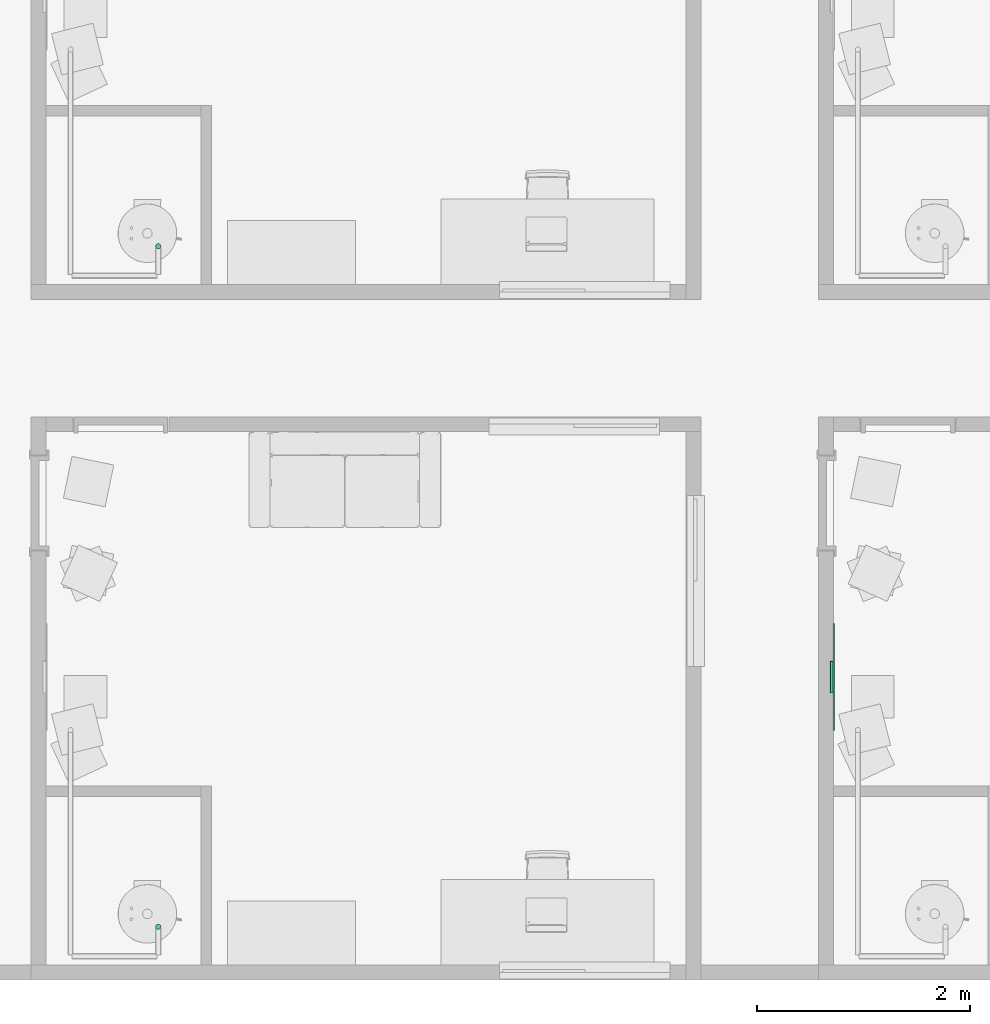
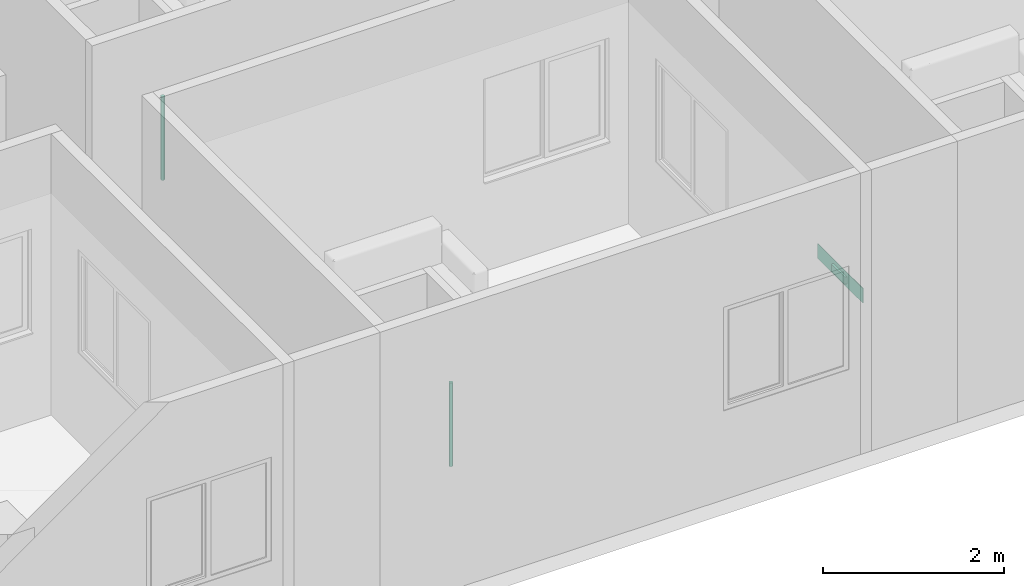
# One storey, part 22 of 71: 2 pipe segments, 1 air terminal.
"""IFC4 building model written with IfcOpenShell, lengths in centimetres."""

import ifcopenshell
import ifcopenshell.guid

model = None  # the IFC model being written
_history = None  # IfcOwnerHistory: only IFC2X3 demands one
_inside = {}  # id of a spatial element -> (the spatial element, [elements in it])
_under = {}  # id of a project, library or spatial element -> (it, [spatial elements below it])
_declared = {}  # id of a project -> (the project, [libraries it declares])
_typed = {}  # id of a type object -> (the type object, [elements of that type])
_made_of = {}  # id of a material, layer set ... -> (it, [elements and type objects made of it])


def new_model(schema):
    """Start an empty IFC model of exactly this schema.

    Asked for "IFC4X3", IfcOpenShell would pick the latest addendum, in which some entities
    have other attributes; the version numbers below select the first issue.
    IFC2X3 requires an IfcOwnerHistory on every rooted entity: one is made here for all.
    """
    global model, _history
    if schema == "IFC4X3":
        model = ifcopenshell.file(schema_version=(4, 3, 0, 0))
    else:
        model = ifcopenshell.file(schema=schema)
    _inside.clear()
    _under.clear()
    _declared.clear()
    _typed.clear()
    _made_of.clear()
    _history = None
    if model.schema == "IFC2X3":
        org = make("IfcOrganization", Name="unknown")
        user = make(
            "IfcPersonAndOrganization",
            ThePerson=make("IfcPerson", FamilyName="unknown"),
            TheOrganization=org,
        )
        app = make(
            "IfcApplication",
            ApplicationDeveloper=org,
            Version="unknown",
            ApplicationFullName="unknown",
            ApplicationIdentifier="unknown",
        )
        _history = make(
            "IfcOwnerHistory",
            OwningUser=user,
            OwningApplication=app,
            ChangeAction="ADDED",
            CreationDate=0,
        )
    return model


def make(cls, **values):
    """One entity of the class cls with the attributes given. An attribute that is None is left unset."""
    return model.create_entity(
        cls, **{name: value for name, value in values.items() if value is not None}
    )


def entity(cls, *values):
    """Any entity or typed value of the class cls, its attributes in the order of the schema. None: left unset."""
    e = model.create_entity(cls)
    for i, value in enumerate(values):
        if value is not None:
            e[i] = value
    return e


def rooted(cls, **values):
    """An entity with a GlobalId (a new one), such as an element, a storey or a relation."""
    return make(cls, GlobalId=ifcopenshell.guid.new(), OwnerHistory=_history, **values)


def si_unit(unit_type, name, prefix=None):
    """IfcSIUnit, for example si_unit("LENGTHUNIT", "METRE", prefix="MILLI")."""
    return make("IfcSIUnit", UnitType=unit_type, Prefix=prefix, Name=name)


def converted_unit(unit_type, name, factor, base, dimensions=None, offset=None):
    """IfcConversionBasedUnit, such as the inch: factor (a typed value) times the base unit."""
    return make(
        "IfcConversionBasedUnit"
        if offset is None
        else "IfcConversionBasedUnitWithOffset",
        ConversionOffset=offset,
        Dimensions=None
        if dimensions is None
        else entity("IfcDimensionalExponents", *dimensions),
        UnitType=unit_type,
        Name=name,
        ConversionFactor=make(
            "IfcMeasureWithUnit", ValueComponent=factor, UnitComponent=base
        ),
    )


def derived_unit(unit_type, elements):
    """IfcDerivedUnit: a product of units, each with its exponent."""
    return make(
        "IfcDerivedUnit",
        Elements=[
            make("IfcDerivedUnitElement", Unit=unit, Exponent=power)
            for unit, power in elements
        ],
        UnitType=unit_type,
    )


def assignment(units):
    """IfcUnitAssignment: the units of a project."""
    return None if units is None else make("IfcUnitAssignment", Units=units)


def point(xyz):
    """IfcCartesianPoint."""
    return None if xyz is None else make("IfcCartesianPoint", Coordinates=xyz)


def direction(xyz):
    """IfcDirection."""
    return None if xyz is None else make("IfcDirection", DirectionRatios=xyz)


def frame(location, z_axis=None, x_axis=None):
    """IfcAxis2Placement3D, a coordinate frame: its origin and axes. An axis left out is left unset."""
    return make(
        "IfcAxis2Placement3D",
        Location=point(location),
        Axis=direction(z_axis),
        RefDirection=direction(x_axis),
    )


def origin():
    """The frame at (0, 0, 0) with its axes left unset."""
    return frame((0.0, 0.0, 0.0))


def place(relative_to, where):
    """IfcLocalPlacement: puts the frame where relative to a parent placement (None: the world)."""
    return make(
        "IfcLocalPlacement", PlacementRelTo=relative_to, RelativePlacement=where
    )


def context(
    kind, dimensions, precision=None, world=None, true_north=None, identifier=None
):
    """IfcGeometricRepresentationContext, for example the 3D "Model" context."""
    return make(
        "IfcGeometricRepresentationContext",
        ContextIdentifier=identifier,
        ContextType=kind,
        CoordinateSpaceDimension=dimensions,
        Precision=precision,
        WorldCoordinateSystem=world,
        TrueNorth=true_north,
    )


def subcontext(parent, identifier, kind, view, scale=None):
    """IfcGeometricRepresentationSubContext, for example "Body" below "Model"."""
    return make(
        "IfcGeometricRepresentationSubContext",
        ContextIdentifier=identifier,
        ContextType=kind,
        ParentContext=parent,
        TargetScale=scale,
        TargetView=view,
    )


def project(units=None, contexts=None):
    """IfcProject with its units and contexts."""
    return rooted(
        "IfcProject",
        Name="project",
        RepresentationContexts=contexts,
        UnitsInContext=assignment(units),
    )


def spatial(cls, under=None, at=None, **own):
    """A site, building, storey or space (cls), placed at a placement, below another one or the project."""
    s = rooted(cls, ObjectPlacement=at, **own)
    if under is not None:
        _under.setdefault(under.id(), (under, []))[1].append(s)
    return s


def point_list(points):
    """IfcCartesianPointList2D or 3D."""
    cls = (
        "IfcCartesianPointList2D" if len(points[0]) == 2 else "IfcCartesianPointList3D"
    )
    return make(cls, CoordList=points)


def arc(*indices):
    """IfcArcIndex: an arc through three numbered points of an indexed curve."""
    return model.create_entity("IfcArcIndex", indices)


def indexed_curve(points, segments=None, self_intersect=None):
    """IfcIndexedPolyCurve: lines and arcs through numbered points (the first is 1)."""
    return make(
        "IfcIndexedPolyCurve",
        Points=point_list(points),
        Segments=segments,
        SelfIntersect=self_intersect,
    )


def outline(outer, holes=None, kind="AREA"):
    """IfcArbitraryClosedProfileDef: a profile drawn as a closed curve; with holes, ...WithVoids."""
    if holes is None:
        return make("IfcArbitraryClosedProfileDef", ProfileType=kind, OuterCurve=outer)
    return make(
        "IfcArbitraryProfileDefWithVoids",
        ProfileType=kind,
        OuterCurve=outer,
        InnerCurves=holes,
    )


def extrude(swept, where, along, depth):
    """IfcExtrudedAreaSolid: the profile swept, set in the frame where, extruded along a direction by depth."""
    return make(
        "IfcExtrudedAreaSolid",
        SweptArea=swept,
        Position=where,
        ExtrudedDirection=direction(along),
        Depth=depth,
    )


def shape(context_of_items, identifier, shape_type, items):
    """IfcShapeRepresentation: the items that make up one representation, for example the "Body"."""
    return make(
        "IfcShapeRepresentation",
        ContextOfItems=context_of_items,
        RepresentationIdentifier=identifier,
        RepresentationType=shape_type,
        Items=items,
    )


def source(mapping_origin, context_of_items, identifier, shape_type, items):
    """IfcRepresentationMap: a shape defined once, which mapped items show again and again."""
    return make(
        "IfcRepresentationMap",
        MappingOrigin=mapping_origin,
        MappedRepresentation=shape(context_of_items, identifier, shape_type, items),
    )


def transform(
    local_origin,
    x_axis=None,
    y_axis=None,
    z_axis=None,
    scale=None,
    scale2=None,
    scale3=None,
    uniform=True,
):
    """IfcCartesianTransformationOperator3D, or its non-uniform kind. x_axis, y_axis, z_axis: its Axis1, 2, 3."""
    if uniform:
        return make(
            "IfcCartesianTransformationOperator3D",
            Axis1=direction(x_axis),
            Axis2=direction(y_axis),
            LocalOrigin=point(local_origin),
            Scale=scale,
            Axis3=direction(z_axis),
        )
    return make(
        "IfcCartesianTransformationOperator3DnonUniform",
        Axis1=direction(x_axis),
        Axis2=direction(y_axis),
        LocalOrigin=point(local_origin),
        Scale=scale,
        Axis3=direction(z_axis),
        Scale2=scale2,
        Scale3=scale3,
    )


def mapped(mapping_source, mapping_target):
    """IfcMappedItem: shows the shape of a source again, moved by a transform."""
    return make(
        "IfcMappedItem", MappingSource=mapping_source, MappingTarget=mapping_target
    )


def material(Name=None, Category=None):
    """IfcMaterial."""
    return make("IfcMaterial", Name=Name, Category=Category)


def constituent(of_material, Name=None, Category=None, fraction=None):
    """IfcMaterialConstituent: one of the materials an element consists of."""
    return make(
        "IfcMaterialConstituent",
        Name=Name,
        Material=of_material,
        Fraction=fraction,
        Category=Category,
    )


def constituent_set(constituents=None, Name=None):
    """IfcMaterialConstituentSet."""
    return make(
        "IfcMaterialConstituentSet", Name=Name, MaterialConstituents=constituents
    )


def made_of(thing, what):
    """Note that an element or type object is made of a material, layer set ...; save() writes the relation."""
    if what is not None:
        _made_of.setdefault(what.id(), (what, []))[1].append(thing)
    return thing


def type_object(cls, material=None, **own):
    """A type object (cls), such as IfcWallType, which elements share."""
    return made_of(rooted(cls, **own), material)


def type_shapes(of_type, sources):
    """Give a type object the sources (RepresentationMaps) that its elements show as mapped items."""
    of_type.RepresentationMaps = sources


def element(
    cls,
    number,
    at=None,
    inside=None,
    cuts=None,
    type_object=None,
    material=None,
    context=None,
    identifier="Body",
    shape_type=None,
    held_by="IfcProductDefinitionShape",
    body=None,
    shapes=None,
    **own,
):
    """One element of the class cls, such as IfcWall. Its Tag is "e" and its number.

    at: its placement. inside: the storey or other place that contains it. cuts: it is an
    opening in that element (IfcRelVoidsElement). A single representation is given by context,
    identifier, shape_type and body (its items); several are given by shapes. held_by: the class
    of the entity that holds the representations. save() writes the other relations.
    """
    e = rooted(cls, Tag="e%d" % number, ObjectPlacement=at, **own)
    if body is not None:
        shapes = [shape(context, identifier, shape_type, body)]
    if shapes is not None:
        e.Representation = make(held_by, Representations=shapes)
    if inside is not None:
        _inside.setdefault(inside.id(), (inside, []))[1].append(e)
    if cuts is not None:
        rooted(
            "IfcRelVoidsElement", RelatingBuildingElement=cuts, RelatedOpeningElement=e
        )
    if type_object is not None:
        _typed.setdefault(type_object.id(), (type_object, []))[1].append(e)
    return made_of(e, material)


def aggregate(whole, parts):
    """IfcRelAggregates: a whole, such as a stair, and the parts it consists of."""
    return rooted("IfcRelAggregates", RelatingObject=whole, RelatedObjects=parts)


def save(model, path):
    """Write the relations noted so far, then the file.

    IfcRelAggregates (storeys below a building ...), IfcRelContainedInSpatialStructure (elements
    in a storey), IfcRelDefinesByType, IfcRelAssociatesMaterial and IfcRelDeclares: one each for
    every whole, place, type object, material and project.
    """
    for whole, parts in _under.values():
        aggregate(whole, parts)
    for where, things in _inside.values():
        rooted(
            "IfcRelContainedInSpatialStructure",
            RelatedElements=things,
            RelatingStructure=where,
        )
    for kind, things in _typed.values():
        rooted("IfcRelDefinesByType", RelatedObjects=things, RelatingType=kind)
    for what, things in _made_of.values():
        rooted("IfcRelAssociatesMaterial", RelatedObjects=things, RelatingMaterial=what)
    for by, libraries in _declared.values():
        rooted("IfcRelDeclares", RelatingContext=by, RelatedDefinitions=libraries)
    model.write(path)


model = new_model("IFC4")

# Units and contexts
model_context = context("Model", 3, precision=0.001, world=origin(), true_north=direction((6.123233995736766e-17, 1.0)))
body_context = subcontext(model_context, "Body", "Model", "MODEL_VIEW")
ifc_project = project(units=[si_unit("LENGTHUNIT", "METRE", prefix="CENTI"), si_unit("AREAUNIT", "SQUARE_METRE"), si_unit("VOLUMEUNIT", "CUBIC_METRE"), derived_unit("THERMALTRANSMITTANCEUNIT", [(si_unit("MASSUNIT", "GRAM", prefix="KILO"), 1), (si_unit("THERMODYNAMICTEMPERATUREUNIT", "KELVIN"), -1), (si_unit("TIMEUNIT", "SECOND"), -3)]), converted_unit("PLANEANGLEUNIT", "DEGREE", entity("IfcPlaneAngleMeasure", 0.017453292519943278), si_unit("PLANEANGLEUNIT", "RADIAN"), dimensions=[0, 0, 0, 0, 0, 0, 0]), derived_unit("MASSDENSITYUNIT", [(si_unit("MASSUNIT", "GRAM", prefix="KILO"), 1), (si_unit("LENGTHUNIT", "METRE"), -3)]), derived_unit("VAPORPERMEABILITYUNIT", [(si_unit("LENGTHUNIT", "METRE"), -1), (si_unit("TIMEUNIT", "SECOND"), 1)]), derived_unit("USERDEFINED", [(si_unit("MASSUNIT", "GRAM", prefix="KILO"), 1), (si_unit("TIMEUNIT", "SECOND"), -3), (si_unit("LENGTHUNIT", "METRE"), 3), (si_unit("ELECTRICCURRENTUNIT", "AMPERE"), -2)]), derived_unit("SPECIFICHEATCAPACITYUNIT", [(si_unit("THERMODYNAMICTEMPERATUREUNIT", "KELVIN"), -1), (si_unit("LENGTHUNIT", "METRE"), 2), (si_unit("TIMEUNIT", "SECOND"), -2)]), derived_unit("THERMALCONDUCTANCEUNIT", [(si_unit("MASSUNIT", "GRAM", prefix="KILO"), 1), (si_unit("THERMODYNAMICTEMPERATUREUNIT", "KELVIN"), -1), (si_unit("TIMEUNIT", "SECOND"), -3), (si_unit("LENGTHUNIT", "METRE"), 1)]), si_unit("PRESSUREUNIT", "PASCAL"), derived_unit("MODULUSOFELASTICITYUNIT", [(si_unit("MASSUNIT", "GRAM", prefix="KILO"), 1), (si_unit("LENGTHUNIT", "METRE"), -1), (si_unit("TIMEUNIT", "SECOND"), -2)]), derived_unit("THERMALEXPANSIONCOEFFICIENTUNIT", [(si_unit("THERMODYNAMICTEMPERATUREUNIT", "KELVIN"), -1)])], contexts=[model_context])

# Site, building, storey, space
site_placement = place(None, origin())
site = spatial("IfcSite", under=ifc_project, at=site_placement, Name="Default", CompositionType="ELEMENT")
building_placement = place(site_placement, origin())
building = spatial("IfcBuilding", under=site, at=building_placement, Name="IDS Escape Game Building", CompositionType="ELEMENT")
storey_placement = place(building_placement, frame((0.0, 0.0, 1200.0)))
storey = spatial("IfcBuildingStorey", under=building, at=storey_placement, Name="03_Third Floor", CompositionType="ELEMENT", Elevation=1200.0)
space_placement = place(storey_placement, origin())
space = spatial("IfcSpace", under=storey, at=space_placement, Name="110", CompositionType="ELEMENT", PredefinedType="NOTDEFINED")

# Air terminal
ifc_material_1 = material(Name="TB_LVC_referentievlak_00_gen_BERSnl", Category="BE Default")
ifc_constituent_1 = constituent(ifc_material_1, Name="TB_LVC_referentievlak_00_gen_BERSnl", Category="BE Default", fraction=0.00014157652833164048)
ifc_material_2 = material(Name="ARC_FME.h2_staal_00_gen_BERSnl", Category="h - metaal")
ifc_constituent_2 = constituent(ifc_material_2, Name="ARC_FME.h2_staal_00_gen_BERSnl", Category="h - metaal", fraction=0.9998584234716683)
ifc_constituent_set_1 = constituent_set(constituents=[ifc_constituent_1, ifc_constituent_2])
ifc_constituent_3 = constituent(ifc_material_1, Name="BE Referentievlak", Category="BE Default", fraction=0.00014157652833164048)
ifc_constituent_4 = constituent(ifc_material_2, Name="Terminals", Category="h - metaal", fraction=0.9998584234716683)
ifc_constituent_set_2 = constituent_set(constituents=[ifc_constituent_3, ifc_constituent_4])
air_terminal_type = type_object("IfcAirTerminalType", Name="TB_57_AIR_FB_aanzuigrooster - 1 rechthoekige aansluiting - calculated flow_gen_BERSnl:Air Terminal - Exhaust", PredefinedType="GRILLE", material=ifc_constituent_set_2)
shared_shape = source(origin(), body_context, "Body", "SweptSolid", [
    extrude(outline(indexed_curve([(-0.5, -2.0290176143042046e-15), (6.8507733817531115e-16, -0.5000000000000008), (0.5, 2.0290176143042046e-15), (-5.361679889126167e-16, 0.49999999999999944)], segments=[arc(1, 2, 3), arc(3, 4, 1)], self_intersect=False)), frame((0.0, 0.0, 0.0), z_axis=(1.7453292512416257e-05, 0.0, 1.0), x_axis=(0.0, 1.0, 0.0)), (0.0, 0.0, 1.0), 0.09999999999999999),
    extrude(outline(indexed_curve([(-14.900000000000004, -4.9), (14.900000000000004, -4.9), (14.900000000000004, 4.9), (-14.900000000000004, 4.9), (-14.900000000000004, -4.9)], self_intersect=False)), frame((-4.886921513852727e-05, 0.0, -2.7999999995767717)), (0.0, 0.0, 1.0), 2.7999999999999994),
    extrude(outline(indexed_curve([(-50.0, -10.0), (50.0, -10.0), (50.0, 10.0), (-50.0, 10.0), (-50.0, -10.0)], self_intersect=False)), frame((0.0, 0.0, 0.0), z_axis=(0.0, 0.0, 1.0), x_axis=(-1.0, 0.0, 0.0)), (0.0, 0.0, 1.0), 0.6999999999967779),
])
type_shapes(air_terminal_type, [shared_shape])
air_terminal_placement = place(space_placement, frame((2959.0, 283.0, 24.0), z_axis=(1.0, 0.0, 0.0), x_axis=(0.0, 1.0, 0.0)))
element("IfcAirTerminal", 1, at=air_terminal_placement, inside=space, type_object=air_terminal_type, material=ifc_constituent_set_1, Name="TB_57_AIR_FB_aanzuigrooster - 1 rechthoekige aansluiting - calculated flow_gen_BERSnl:Air Terminal - Exhaust", ObjectType="TB_57_AIR_FB_aanzuigrooster - 1 rechthoekige aansluiting - calculated flow_gen_BERSnl:Air Terminal - Exhaust", PredefinedType="GRILLE", context=body_context, shape_type="MappedRepresentation", body=[
    mapped(shared_shape, transform((0.0, 0.0, 0.0), scale=1.0)),
])

# Pipe segments
pipe_segment_type = type_object("IfcPipeSegmentType", Name="Pipe Types:Piping Aluminum", PredefinedType="NOTDEFINED")
pipe_segment_1_placement = place(storey_placement, origin())
element("IfcPipeSegment", 2, at=pipe_segment_1_placement, inside=storey, type_object=pipe_segment_type, Name="Pipe Types:Piping Aluminum", ObjectType="Pipe Types:Piping Aluminum", PredefinedType="NOTDEFINED", context=body_context, shape_type="SweptSolid", body=[
    extrude(outline(indexed_curve([(2.412999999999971, 0.0), (1.7062486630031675, 1.7062486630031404), (0.0, 2.412999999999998), (-1.7062486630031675, 1.7062486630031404), (-2.412999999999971, 6.767919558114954e-15), (-1.7062486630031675, -1.7062486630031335), (0.0, -2.412999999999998), (1.7062486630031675, -1.706248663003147)], segments=[arc(1, 2, 3), arc(3, 4, 5), arc(5, 6, 7), arc(7, 8, 1)], self_intersect=False)), frame((2326.150000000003, 48.90000000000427, 128.0), z_axis=(0.0, 0.0, 1.0), x_axis=(-1.0, 0.0, 0.0)), (0.0, 0.0, 1.0), 112.90000000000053),
])
pipe_segment_2_placement = place(storey_placement, origin())
element("IfcPipeSegment", 3, at=pipe_segment_2_placement, inside=storey, type_object=pipe_segment_type, Name="Pipe Types:Piping Aluminum", ObjectType="Pipe Types:Piping Aluminum", PredefinedType="NOTDEFINED", context=body_context, shape_type="SweptSolid", body=[
    extrude(outline(indexed_curve([(2.412999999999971, 0.0), (1.7062486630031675, 1.7062486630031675), (0.0, 2.412999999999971), (-1.7062486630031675, 1.7062486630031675), (-2.412999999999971, 0.0), (-1.7062486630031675, -1.7062486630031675), (0.0, -2.412999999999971), (1.7062486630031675, -1.7062486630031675)], segments=[arc(1, 2, 3), arc(3, 4, 5), arc(5, 6, 7), arc(7, 8, 1)], self_intersect=False)), frame((2326.1500000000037, 686.9000000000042, 128.0), z_axis=(0.0, 0.0, 1.0), x_axis=(-1.0, 0.0, 0.0)), (0.0, 0.0, 1.0), 112.90000000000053),
])

save(model, "model.ifc")
